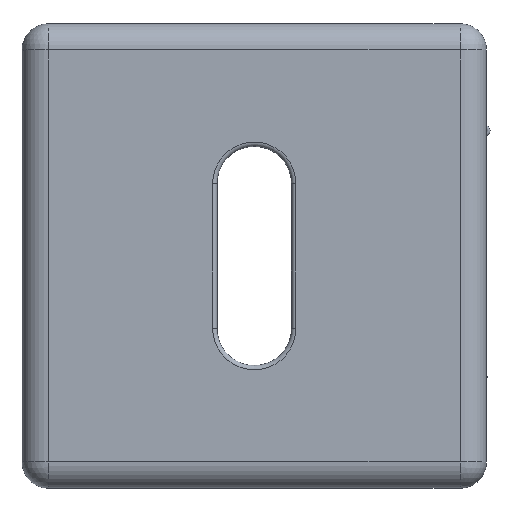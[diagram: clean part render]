
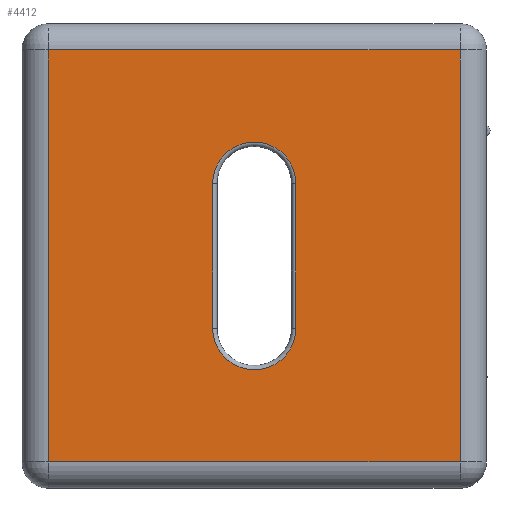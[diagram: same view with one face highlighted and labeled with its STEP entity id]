
A CAD part, top view. The second image highlights one B-rep face of the part: STEP entity #4412.
In plain terms, the highlighted planar face has unit normal (0, 0, 1).
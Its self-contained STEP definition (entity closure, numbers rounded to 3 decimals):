
#10 = VERTEX_POINT ( 'NONE', #239 ) ;
#109 = ORIENTED_EDGE ( 'NONE', *, *, #5696, .T. ) ;
#121 = VERTEX_POINT ( 'NONE', #2073 ) ;
#239 = CARTESIAN_POINT ( 'NONE',  ( 4.75, 8.25, 3. ) ) ;
#284 = DIRECTION ( 'NONE',  ( 0., 0., -1. ) ) ;
#301 = LINE ( 'NONE', #728, #5359 ) ;
#540 = EDGE_LOOP ( 'NONE', ( #1539, #109, #1994, #1612 ) ) ;
#667 = VECTOR ( 'NONE', #1371, 1000. ) ;
#699 = LINE ( 'NONE', #742, #5773 ) ;
#728 = CARTESIAN_POINT ( 'NONE',  ( 23.5, -23.5, 3. ) ) ;
#742 = CARTESIAN_POINT ( 'NONE',  ( 4.75, -8.25, 3. ) ) ;
#866 = VECTOR ( 'NONE', #4876, 1000. ) ;
#961 = ORIENTED_EDGE ( 'NONE', *, *, #5657, .T. ) ;
#997 = FACE_BOUND ( 'NONE', #540, .T. ) ;
#1004 = EDGE_CURVE ( 'NONE', #121, #1334, #5807, .T. ) ;
#1009 = ORIENTED_EDGE ( 'NONE', *, *, #1004, .T. ) ;
#1143 = CARTESIAN_POINT ( 'NONE',  ( -4.75, -8.25, 3. ) ) ;
#1159 = FACE_OUTER_BOUND ( 'NONE', #1804, .T. ) ;
#1289 = DIRECTION ( 'NONE',  ( 0., 0., -1. ) ) ;
#1334 = VERTEX_POINT ( 'NONE', #5541 ) ;
#1371 = DIRECTION ( 'NONE',  ( -1., 0., 0. ) ) ;
#1472 = VECTOR ( 'NONE', #4095, 1000. ) ;
#1476 = CARTESIAN_POINT ( 'NONE',  ( -4.75, 8.25, 3. ) ) ;
#1539 = ORIENTED_EDGE ( 'NONE', *, *, #3500, .T. ) ;
#1607 = CIRCLE ( 'NONE', #4692, 4.75 ) ;
#1612 = ORIENTED_EDGE ( 'NONE', *, *, #4445, .T. ) ;
#1804 = EDGE_LOOP ( 'NONE', ( #961, #3749, #4627, #1009 ) ) ;
#1994 = ORIENTED_EDGE ( 'NONE', *, *, #2484, .T. ) ;
#2073 = CARTESIAN_POINT ( 'NONE',  ( -23.5, 23.5, 3. ) ) ;
#2169 = DIRECTION ( 'NONE',  ( 0., 0., 1. ) ) ;
#2231 = VERTEX_POINT ( 'NONE', #5241 ) ;
#2484 = EDGE_CURVE ( 'NONE', #2717, #2974, #3314, .T. ) ;
#2622 = CARTESIAN_POINT ( 'NONE',  ( 23.5, 23.5, 3. ) ) ;
#2683 = CARTESIAN_POINT ( 'NONE',  ( 23.5, 23.5, 3. ) ) ;
#2717 = VERTEX_POINT ( 'NONE', #1143 ) ;
#2743 = DIRECTION ( 'NONE',  ( 0., -1., 0. ) ) ;
#2974 = VERTEX_POINT ( 'NONE', #5235 ) ;
#3188 = PLANE ( 'NONE',  #4446 ) ;
#3199 = CARTESIAN_POINT ( 'NONE',  ( 0., -8.25, 3. ) ) ;
#3264 = LINE ( 'NONE', #5286, #667 ) ;
#3314 = LINE ( 'NONE', #1476, #866 ) ;
#3500 = EDGE_CURVE ( 'NONE', #10, #2231, #699, .T. ) ;
#3696 = DIRECTION ( 'NONE',  ( 1., 0., 0. ) ) ;
#3709 = DIRECTION ( 'NONE',  ( 1., 0., 0. ) ) ;
#3749 = ORIENTED_EDGE ( 'NONE', *, *, #4341, .T. ) ;
#3874 = VERTEX_POINT ( 'NONE', #6148 ) ;
#4095 = DIRECTION ( 'NONE',  ( 0., 1., 0. ) ) ;
#4153 = DIRECTION ( 'NONE',  ( 1., 0., 0. ) ) ;
#4177 = DIRECTION ( 'NONE',  ( 0., -1., 0. ) ) ;
#4216 = CARTESIAN_POINT ( 'NONE',  ( -23.5, -23.5, 3. ) ) ;
#4218 = CARTESIAN_POINT ( 'NONE',  ( 0., 8.25, 3. ) ) ;
#4341 = EDGE_CURVE ( 'NONE', #4554, #3874, #5542, .T. ) ;
#4412 = ADVANCED_FACE ( 'NONE', ( #997, #1159 ), #3188, .T. ) ;
#4445 = EDGE_CURVE ( 'NONE', #2974, #10, #5902, .T. ) ;
#4446 = AXIS2_PLACEMENT_3D ( 'NONE', #2683, #2169, #3696 ) ;
#4554 = VERTEX_POINT ( 'NONE', #5791 ) ;
#4627 = ORIENTED_EDGE ( 'NONE', *, *, #5857, .T. ) ;
#4649 = VECTOR ( 'NONE', #2743, 1000. ) ;
#4692 = AXIS2_PLACEMENT_3D ( 'NONE', #3199, #284, #3709 ) ;
#4708 = DIRECTION ( 'NONE',  ( 1., 0., 0. ) ) ;
#4876 = DIRECTION ( 'NONE',  ( 0., 1., 0. ) ) ;
#5107 = AXIS2_PLACEMENT_3D ( 'NONE', #4218, #1289, #4708 ) ;
#5235 = CARTESIAN_POINT ( 'NONE',  ( -4.75, 8.25, 3. ) ) ;
#5241 = CARTESIAN_POINT ( 'NONE',  ( 4.75, -8.25, 3. ) ) ;
#5286 = CARTESIAN_POINT ( 'NONE',  ( -23.5, 23.5, 3. ) ) ;
#5359 = VECTOR ( 'NONE', #4153, 1000. ) ;
#5541 = CARTESIAN_POINT ( 'NONE',  ( -23.5, -23.5, 3. ) ) ;
#5542 = LINE ( 'NONE', #2622, #1472 ) ;
#5657 = EDGE_CURVE ( 'NONE', #1334, #4554, #301, .T. ) ;
#5696 = EDGE_CURVE ( 'NONE', #2231, #2717, #1607, .T. ) ;
#5773 = VECTOR ( 'NONE', #4177, 1000. ) ;
#5791 = CARTESIAN_POINT ( 'NONE',  ( 23.5, -23.5, 3. ) ) ;
#5807 = LINE ( 'NONE', #4216, #4649 ) ;
#5857 = EDGE_CURVE ( 'NONE', #3874, #121, #3264, .T. ) ;
#5902 = CIRCLE ( 'NONE', #5107, 4.75 ) ;
#6148 = CARTESIAN_POINT ( 'NONE',  ( 23.5, 23.5, 3. ) ) ;
